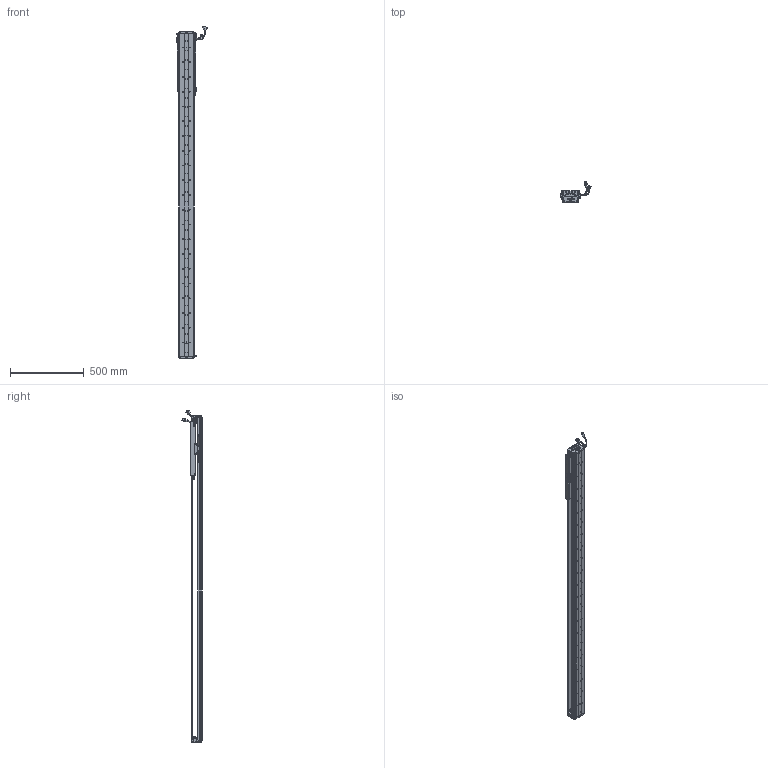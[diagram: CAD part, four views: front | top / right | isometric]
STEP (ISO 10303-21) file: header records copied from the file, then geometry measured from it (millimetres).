
FILE_DESCRIPTION (( 'STEP AP203' ), '1' );
FILE_NAME ('Z5-RY100D-1-L500-B-K.SLDASM_1750.step', '2021-05-17T03:34:00', ( '盈信电脑' ), ( '东莞市道滘镇水果街19号' ), 'SwSTEP 2.0', 'SolidWorks 2016', '' );
FILE_SCHEMA (( 'CONFIG_CONTROL_DESIGN' ));
Length unit declared in the file: millimetre
Products named in the file (36): 080黍杅芛假蚾釱21遴; HARNESS-Part-2; SCREW-M1.6-2; SEAL-Part-1; Z5-RY100-L500詩湍90mm遵_1750; COVER-Part-1; Z5-RY100铝滑块（21款）; SCREW-M1.6-3; LABEL-Part-1; SCALE-Part-2; PSLH080_PSLF2; PBU_SHEET; SCALE; HARNESS-Part-1; LABEL; HARNESS; Z-RY100D覜茼んえ; Z-100詩湍傷裔啣; SCREW-M1.6-1; Z-RY100D詩湍狟揤裔; 榋妏寠巭燃_暯_M2_2; Z5-RY100D-500-倰第菁釱_1750; SCREW-M1.6; SEAL; COVER; SCALE-Part-1; SHIELDPLATE; 100-Z-臏賑輸盄裔(21遴); Z5-RY100D-1-L500-B-K.SLDASM_1750; SCREW-M1.7; 覜茼ん672; Z-RY100D詩湍奻揤裔; 140雄赽晤鎢ん堤盄; HOLDER0; SCREW-M1.7-1; 140蚥薯蝶輸
Assembly tree (43 placements, depth 4):
  Z5-RY100D-1-L500-B-K.SLDASM_1750
    Z5-RY100D-500-倰第菁釱_1750
    Z5-RY100铝滑块（21款）
    PSLH080_PSLF2
      SCALE
        SCALE-Part-1
        SCALE-Part-2
      HARNESS
        HARNESS-Part-1
        HARNESS-Part-2
      LABEL
        LABEL-Part-1
      COVER
        COVER-Part-1
      SEAL
        SEAL-Part-1
      榋妏寠巭燃_暯_M2_2
      SHIELDPLATE
      SCREW-M1.7
      SCREW-M1.7-1
      PBU_SHEET
      SCREW-M1.6
      SCREW-M1.6-1
      SCREW-M1.6-2
      SCREW-M1.6-3
      HOLDER0
    080黍杅芛假蚾釱21遴
    Z-100詩湍傷裔啣  x2
    140蚥薯蝶輸  x2
    覜茼ん672  x3
    Z-RY100D覜茼んえ  x3
    100-Z-臏賑輸盄裔(21遴)
    140雄赽晤鎢ん堤盄
    Z5-RY100-L500詩湍90mm遵_1750
    Z-RY100D詩湍狟揤裔  x2
    Z-RY100D詩湍奻揤裔  x2
Bounding box: 205.84 x 136.11 x 2250.43 mm (x, y, z)
Volume: 4430438.7 mm3; surface area: 1700613.2 mm2
Topology: 38 solids, 38 shells, 2891 faces, 7807 edges, 4972 vertices
Faces by surface type: cylinder 1378, plane 1165, cone 226, torus 69, bspline 53
Entity records: 82341 total; most frequent: CARTESIAN_POINT 17251, DIRECTION 13229, ORIENTED_EDGE 12494, EDGE_CURVE 6247, AXIS2_PLACEMENT_3D 4950, VERTEX_POINT 4040, LINE 3329, VECTOR 3329
